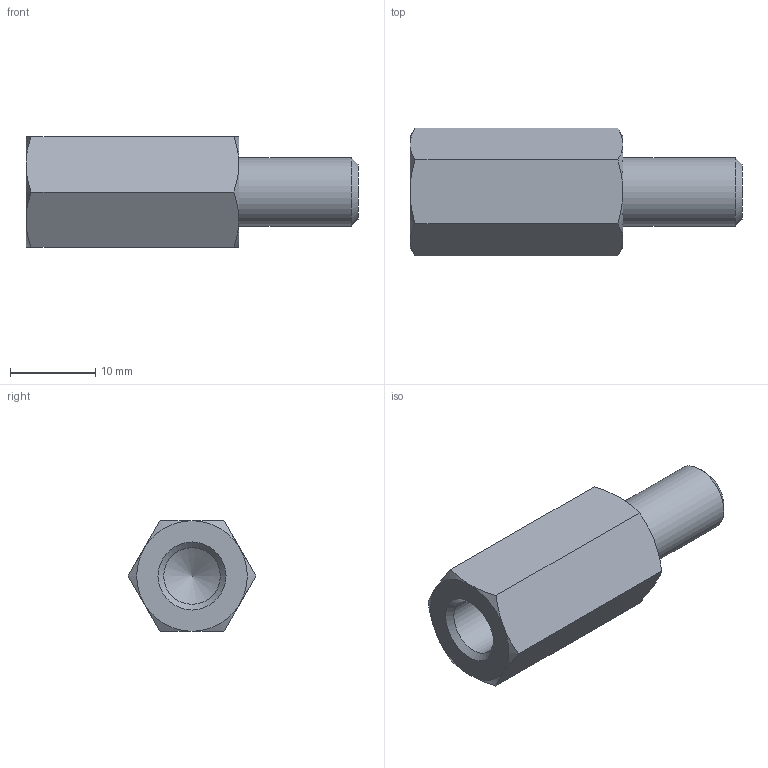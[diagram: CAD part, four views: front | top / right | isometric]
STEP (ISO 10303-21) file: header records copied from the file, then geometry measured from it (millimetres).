
FILE_DESCRIPTION( ( 'STEP AP203' ), '1' );
FILE_NAME( 'C:/Temp/Ganter_Step_05_03_2020/data/3_2/gn6220/gn6220_ni/Stainless Steel-Spacer GN 6220-NI-M8-25-B.stp', '2020-03-13T05:43:17', ( 'License CC BY-ND 4.0' ), ( 'CADENAS' ), ' ', 'PARTsolutions', ' ' );
FILE_SCHEMA( ( 'CONFIG_CONTROL_DESIGN' ) );
Length unit declared in the file: millimetre
Products named in the file (1): _Stainless Steel-Spacer GN 6220-NI-M8-25-B
Bounding box: 39 x 15.01 x 13 mm (x, y, z)
Volume: 3621.8 mm3; surface area: 2164.6 mm2
Topology: 1 solids, 1 shells, 26 faces, 55 edges, 32 vertices
Faces by surface type: cone 15, plane 9, cylinder 2
Full cylindrical faces by diameter (mm): 6.647 x1, 8 x1
Entity records: 778 total; most frequent: CARTESIAN_POINT 242, DIRECTION 96, ORIENTED_EDGE 96, EDGE_CURVE 48, AXIS2_PLACEMENT_3D 45, EDGE_LOOP 32, VERTEX_POINT 31, FACE_OUTER_BOUND 28
